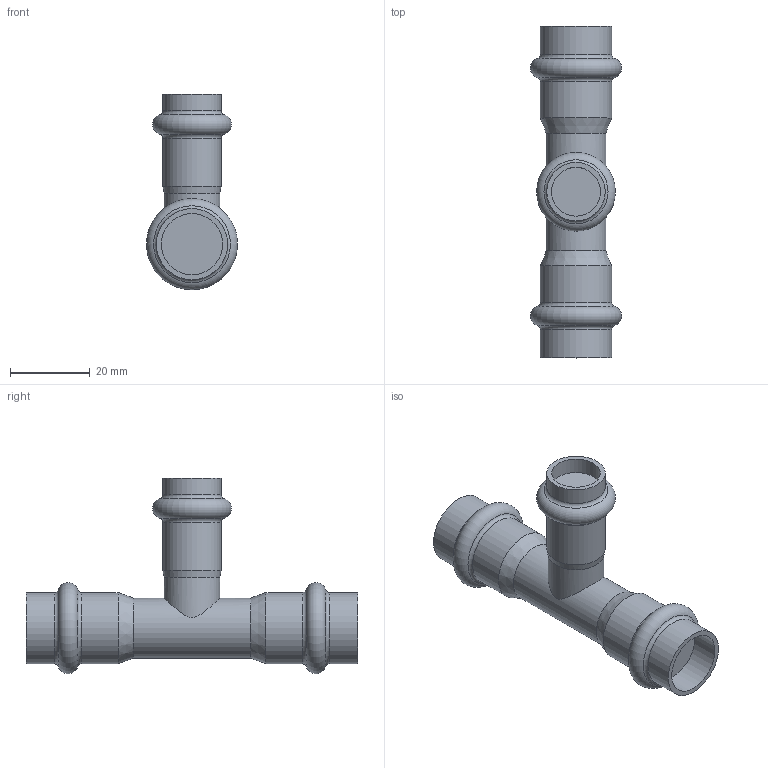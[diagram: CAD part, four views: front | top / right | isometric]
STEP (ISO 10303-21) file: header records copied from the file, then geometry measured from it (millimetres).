
FILE_DESCRIPTION(('STEP AP203'), '1');
FILE_NAME('VTi.931.I.151215', '', ('UNSPECIFIED'), ('UNSPECIFIED'), 'C3D Converter', 'C3D Toolkit', '');
FILE_SCHEMA(('CONFIG_CONTROL_DESIGN'));
Length unit declared in the file: millimetre
Bounding box: 22.8 x 83 x 48.9 mm (x, y, z)
Volume: 22037.4 mm3; surface area: 7762.2 mm2
Topology: 1 solids, 1 shells, 29 faces, 53 edges, 29 vertices
Faces by surface type: cylinder 11, torus 9, plane 6, cone 3
Full cylindrical faces by diameter (mm): 12.2 x1, 14 x1, 14.6 x2, 15 x1, 15.3 x2, 17.8 x4
Entity records: 890 total; most frequent: CARTESIAN_POINT 360, DIRECTION 114, ORIENTED_EDGE 58, AXIS2_PLACEMENT_3D 57, EDGE_LOOP 56, FACE_OUTER_BOUND 45, ADVANCED_FACE 29, EDGE_CURVE 29
